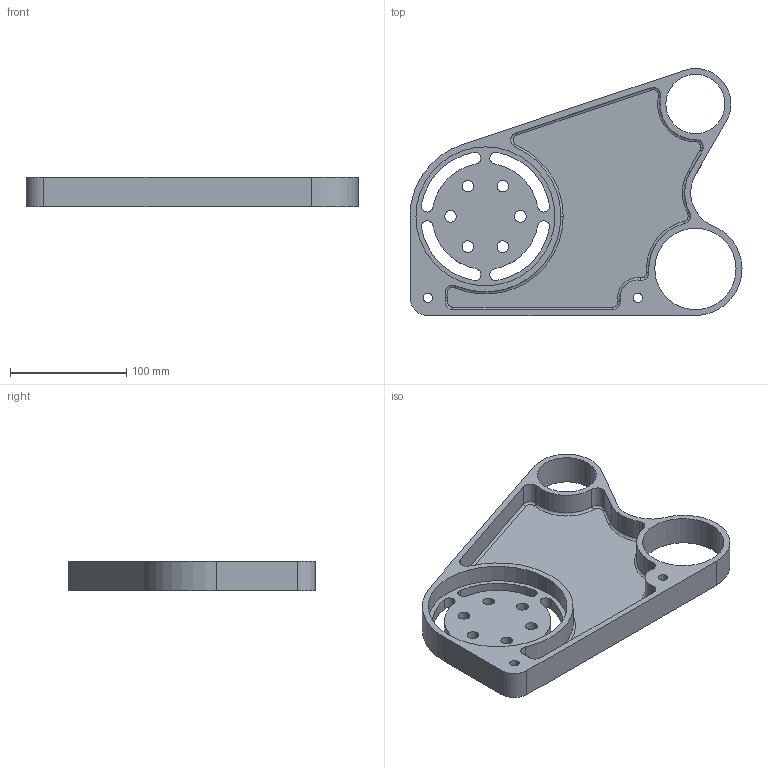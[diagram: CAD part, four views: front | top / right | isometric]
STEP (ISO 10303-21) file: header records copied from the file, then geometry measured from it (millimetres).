
FILE_DESCRIPTION (( 'STEP AP203' ), '1' );
FILE_NAME ('Gear-Housing-Inch.STEP', '2014-05-20T07:50:19', ( 'Julian' ), ( '' ), 'SwSTEP 2.0', 'SolidWorks 2004231', '' );
FILE_SCHEMA (( 'CONFIG_CONTROL_DESIGN' ));
Length unit declared in the file: inch
Products named in the file (1): Gear-Housing-Inch
Bounding box: 285.12 x 212.08 x 25.4 mm (x, y, z)
Volume: 404827.1 mm3; surface area: 136268.9 mm2
Topology: 1 solids, 1 shells, 105 faces, 279 edges, 178 vertices
Faces by surface type: cylinder 73, torus 21, plane 11
Entity records: 3481 total; most frequent: DIRECTION 676, CARTESIAN_POINT 563, ORIENTED_EDGE 558, AXIS2_PLACEMENT_3D 291, EDGE_CURVE 279, CIRCLE 185, VERTEX_POINT 178, EDGE_LOOP 135
